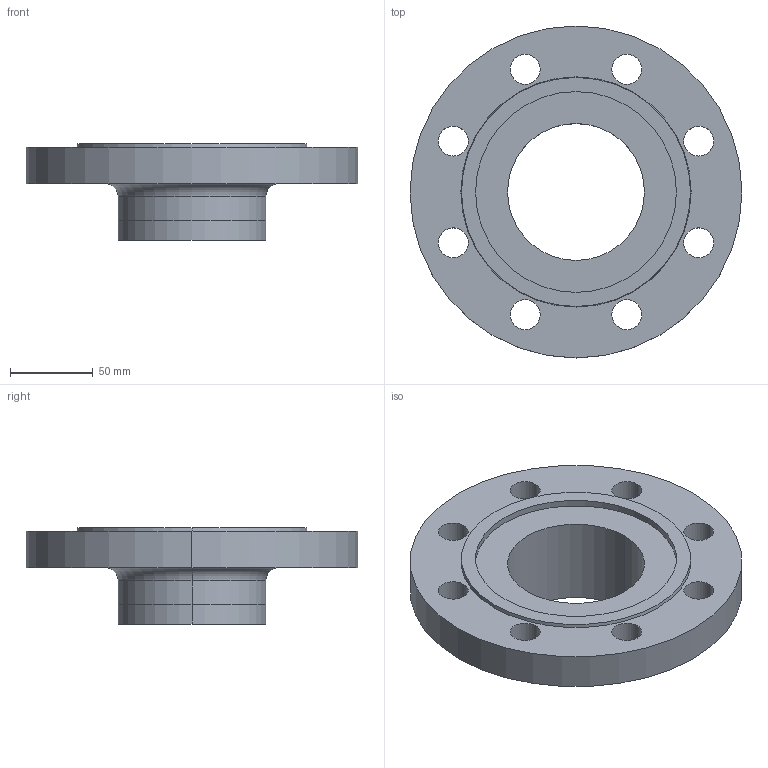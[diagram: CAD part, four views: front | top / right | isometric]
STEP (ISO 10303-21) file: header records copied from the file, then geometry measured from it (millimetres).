
FILE_DESCRIPTION (( 'STEP AP214' ), '1' );
FILE_NAME ('PN40 DN80 Type 11 - Type F Face.STEP', '2019-01-01T19:42:00', ( '' ), ( '' ), 'SwSTEP 2.0', 'SolidWorks 2019', '' );
FILE_SCHEMA (( 'AUTOMOTIVE_DESIGN' ));
Length unit declared in the file: millimetre
Products named in the file (1): PN40 DN80 Type 11 - Type F Face
Bounding box: 200 x 200 x 58 mm (x, y, z)
Volume: 557019.5 mm3; surface area: 96645.4 mm2
Topology: 1 solids, 1 shells, 37 faces, 90 edges, 58 vertices
Faces by surface type: cylinder 24, plane 5, torus 4, cone 4
Entity records: 1188 total; most frequent: DIRECTION 228, CARTESIAN_POINT 186, ORIENTED_EDGE 180, AXIS2_PLACEMENT_3D 100, EDGE_CURVE 90, CIRCLE 62, EDGE_LOOP 58, VERTEX_POINT 58
